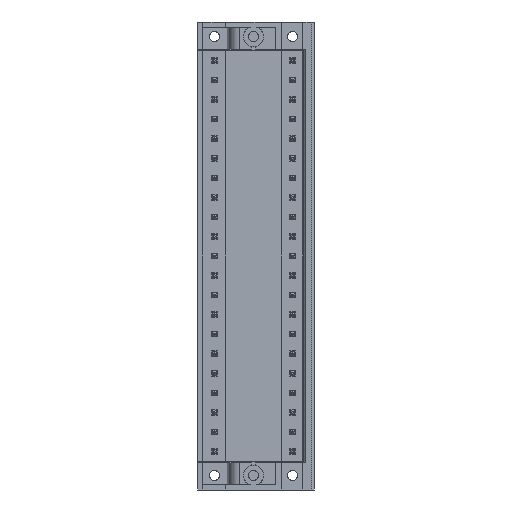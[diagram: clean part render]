
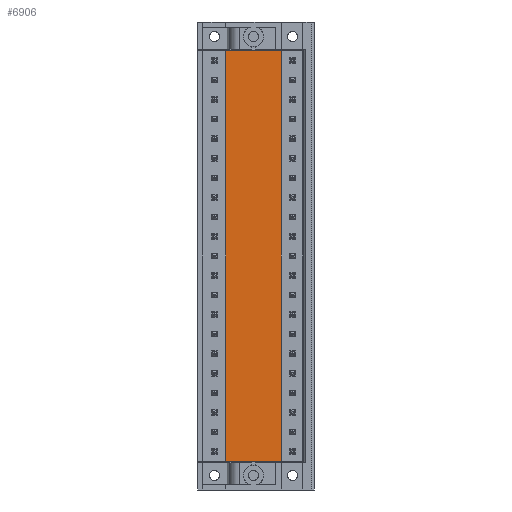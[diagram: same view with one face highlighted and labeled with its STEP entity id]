
A CAD part, front view. The second image highlights one B-rep face of the part: STEP entity #6906.
In plain terms, the highlighted planar face has unit normal (0, -1, 0).
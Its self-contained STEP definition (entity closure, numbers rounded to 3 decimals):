
#2320 = EDGE_CURVE ( 'NONE', #93118, #115700, #120076, .T. ) ;
#2917 = CARTESIAN_POINT ( 'NONE',  ( -5.9, 0., -78.65 ) ) ;
#6906 = ADVANCED_FACE ( 'NONE', ( #81802 ), #86376, .F. ) ;
#9894 = CARTESIAN_POINT ( 'NONE',  ( -5.9, 0., -78.65 ) ) ;
#11008 = CARTESIAN_POINT ( 'NONE',  ( -5.9, 0., -5.15 ) ) ;
#19203 = VECTOR ( 'NONE', #30053, 1000. ) ;
#28299 = DIRECTION ( 'NONE',  ( -1., 0., 0. ) ) ;
#29010 = CARTESIAN_POINT ( 'NONE',  ( -5.9, 0., -64.65 ) ) ;
#30053 = DIRECTION ( 'NONE',  ( 0., 0., -1. ) ) ;
#44387 = ORIENTED_EDGE ( 'NONE', *, *, #89634, .F. ) ;
#47906 = EDGE_CURVE ( 'NONE', #126203, #91814, #54451, .T. ) ;
#48756 = CARTESIAN_POINT ( 'NONE',  ( -15.9, 0., -78.65 ) ) ;
#52243 = AXIS2_PLACEMENT_3D ( 'NONE', #152589, #90670, #28299 ) ;
#52288 = ORIENTED_EDGE ( 'NONE', *, *, #47906, .F. ) ;
#54451 = LINE ( 'NONE', #11008, #56269 ) ;
#56269 = VECTOR ( 'NONE', #72796, 1000. ) ;
#56462 = EDGE_LOOP ( 'NONE', ( #44387, #52288, #97059, #137036 ) ) ;
#64259 = LINE ( 'NONE', #118211, #87515 ) ;
#72796 = DIRECTION ( 'NONE',  ( 1., 0., 0. ) ) ;
#79341 = VECTOR ( 'NONE', #138563, 1000. ) ;
#80266 = DIRECTION ( 'NONE',  ( 0., 0., -1. ) ) ;
#81802 = FACE_OUTER_BOUND ( 'NONE', #56462, .T. ) ;
#86376 = PLANE ( 'NONE',  #52243 ) ;
#87228 = LINE ( 'NONE', #29010, #19203 ) ;
#87515 = VECTOR ( 'NONE', #80266, 1000. ) ;
#89634 = EDGE_CURVE ( 'NONE', #91814, #115700, #87228, .T. ) ;
#90670 = DIRECTION ( 'NONE',  ( 0., 1., 0. ) ) ;
#91814 = VERTEX_POINT ( 'NONE', #130138 ) ;
#93118 = VERTEX_POINT ( 'NONE', #48756 ) ;
#96031 = CARTESIAN_POINT ( 'NONE',  ( -15.9, 0., -5.15 ) ) ;
#97059 = ORIENTED_EDGE ( 'NONE', *, *, #142616, .T. ) ;
#115700 = VERTEX_POINT ( 'NONE', #9894 ) ;
#118211 = CARTESIAN_POINT ( 'NONE',  ( -15.9, 0., -64.65 ) ) ;
#120076 = LINE ( 'NONE', #2917, #79341 ) ;
#126203 = VERTEX_POINT ( 'NONE', #96031 ) ;
#130138 = CARTESIAN_POINT ( 'NONE',  ( -5.9, 0., -5.15 ) ) ;
#137036 = ORIENTED_EDGE ( 'NONE', *, *, #2320, .T. ) ;
#138563 = DIRECTION ( 'NONE',  ( 1., 0., 0. ) ) ;
#142616 = EDGE_CURVE ( 'NONE', #126203, #93118, #64259, .T. ) ;
#152589 = CARTESIAN_POINT ( 'NONE',  ( -5.9, 0., -64.65 ) ) ;
